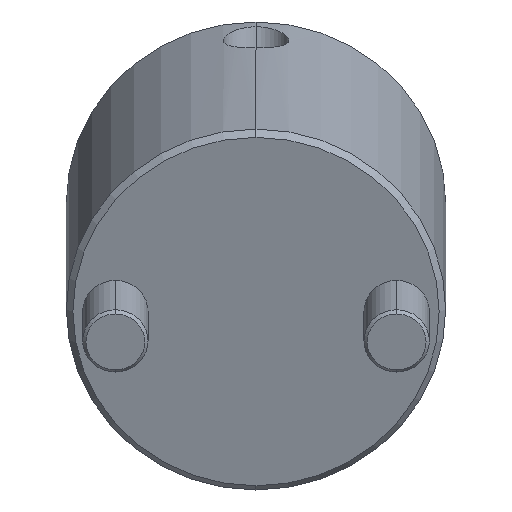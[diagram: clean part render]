
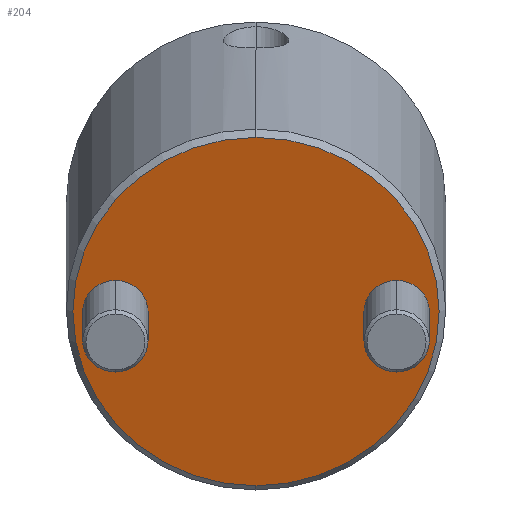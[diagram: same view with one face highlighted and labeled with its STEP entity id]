
A CAD part, front view. The second image highlights one B-rep face of the part: STEP entity #204.
In plain terms, the highlighted planar face has unit normal (0, -0.951, -0.309) as drawn and (0, 0, -1) by its records, which use the part's own axes.
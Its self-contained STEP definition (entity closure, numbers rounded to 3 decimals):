
#32 = EDGE_CURVE ( 'NONE', #799, #945, #1373, .T. ) ;
#71 = CIRCLE ( 'NONE', #512, 28. ) ;
#98 = CIRCLE ( 'NONE', #293, 5. ) ;
#99 = DIRECTION ( 'NONE',  ( -1., 0., 0. ) ) ;
#121 = CARTESIAN_POINT ( 'NONE',  ( 0., -21.5, 0. ) ) ;
#137 = DIRECTION ( 'NONE',  ( 1., 0., 0. ) ) ;
#193 = AXIS2_PLACEMENT_3D ( 'NONE', #872, #997, #137 ) ;
#204 = ADVANCED_FACE ( 'NONE', ( #573, #1300, #1024 ), #205, .F. ) ;
#205 = PLANE ( 'NONE',  #614 ) ;
#248 = DIRECTION ( 'NONE',  ( -1., 0., 0. ) ) ;
#293 = AXIS2_PLACEMENT_3D ( 'NONE', #1307, #941, #467 ) ;
#374 = ORIENTED_EDGE ( 'NONE', *, *, #1426, .F. ) ;
#410 = EDGE_LOOP ( 'NONE', ( #1390, #1469 ) ) ;
#417 = CARTESIAN_POINT ( 'NONE',  ( -5., -21.5, 0. ) ) ;
#467 = DIRECTION ( 'NONE',  ( -1., 0., 0. ) ) ;
#493 = AXIS2_PLACEMENT_3D ( 'NONE', #121, #948, #248 ) ;
#496 = EDGE_CURVE ( 'NONE', #945, #799, #1081, .T. ) ;
#508 = CARTESIAN_POINT ( 'NONE',  ( 5., 21.5, 0. ) ) ;
#512 = AXIS2_PLACEMENT_3D ( 'NONE', #523, #645, #760 ) ;
#523 = CARTESIAN_POINT ( 'NONE',  ( 0., 0., 0. ) ) ;
#558 = ORIENTED_EDGE ( 'NONE', *, *, #1438, .F. ) ;
#571 = DIRECTION ( 'NONE',  ( 1., 0., 0. ) ) ;
#573 = FACE_BOUND ( 'NONE', #410, .T. ) ;
#578 = AXIS2_PLACEMENT_3D ( 'NONE', #780, #691, #99 ) ;
#614 = AXIS2_PLACEMENT_3D ( 'NONE', #1392, #693, #571 ) ;
#625 = CIRCLE ( 'NONE', #493, 5. ) ;
#630 = EDGE_LOOP ( 'NONE', ( #374, #558 ) ) ;
#634 = EDGE_CURVE ( 'NONE', #1004, #1457, #71, .T. ) ;
#645 = DIRECTION ( 'NONE',  ( 0., 0., 1. ) ) ;
#687 = CIRCLE ( 'NONE', #193, 28. ) ;
#691 = DIRECTION ( 'NONE',  ( 0., 0., -1. ) ) ;
#693 = DIRECTION ( 'NONE',  ( 0., 0., 1. ) ) ;
#699 = CARTESIAN_POINT ( 'NONE',  ( -28., 0., 0. ) ) ;
#715 = EDGE_LOOP ( 'NONE', ( #846, #833 ) ) ;
#760 = DIRECTION ( 'NONE',  ( 1., 0., 0. ) ) ;
#780 = CARTESIAN_POINT ( 'NONE',  ( 0., 21.5, 0. ) ) ;
#799 = VERTEX_POINT ( 'NONE', #508 ) ;
#833 = ORIENTED_EDGE ( 'NONE', *, *, #1402, .F. ) ;
#846 = ORIENTED_EDGE ( 'NONE', *, *, #634, .F. ) ;
#872 = CARTESIAN_POINT ( 'NONE',  ( 0., 0., 0. ) ) ;
#926 = AXIS2_PLACEMENT_3D ( 'NONE', #1101, #1093, #1333 ) ;
#941 = DIRECTION ( 'NONE',  ( 0., 0., -1. ) ) ;
#945 = VERTEX_POINT ( 'NONE', #971 ) ;
#948 = DIRECTION ( 'NONE',  ( 0., 0., -1. ) ) ;
#971 = CARTESIAN_POINT ( 'NONE',  ( -5., 21.5, 0. ) ) ;
#997 = DIRECTION ( 'NONE',  ( 0., 0., 1. ) ) ;
#1004 = VERTEX_POINT ( 'NONE', #1103 ) ;
#1024 = FACE_OUTER_BOUND ( 'NONE', #715, .T. ) ;
#1081 = CIRCLE ( 'NONE', #926, 5. ) ;
#1093 = DIRECTION ( 'NONE',  ( 0., 0., -1. ) ) ;
#1094 = VERTEX_POINT ( 'NONE', #1368 ) ;
#1101 = CARTESIAN_POINT ( 'NONE',  ( 0., 21.5, 0. ) ) ;
#1103 = CARTESIAN_POINT ( 'NONE',  ( 28., 0., 0. ) ) ;
#1300 = FACE_BOUND ( 'NONE', #630, .T. ) ;
#1307 = CARTESIAN_POINT ( 'NONE',  ( 0., -21.5, 0. ) ) ;
#1333 = DIRECTION ( 'NONE',  ( -1., 0., 0. ) ) ;
#1368 = CARTESIAN_POINT ( 'NONE',  ( 5., -21.5, 0. ) ) ;
#1373 = CIRCLE ( 'NONE', #578, 5. ) ;
#1390 = ORIENTED_EDGE ( 'NONE', *, *, #496, .F. ) ;
#1392 = CARTESIAN_POINT ( 'NONE',  ( 0., 0., 0. ) ) ;
#1402 = EDGE_CURVE ( 'NONE', #1457, #1004, #687, .T. ) ;
#1419 = VERTEX_POINT ( 'NONE', #417 ) ;
#1426 = EDGE_CURVE ( 'NONE', #1419, #1094, #98, .T. ) ;
#1438 = EDGE_CURVE ( 'NONE', #1094, #1419, #625, .T. ) ;
#1457 = VERTEX_POINT ( 'NONE', #699 ) ;
#1469 = ORIENTED_EDGE ( 'NONE', *, *, #32, .F. ) ;
